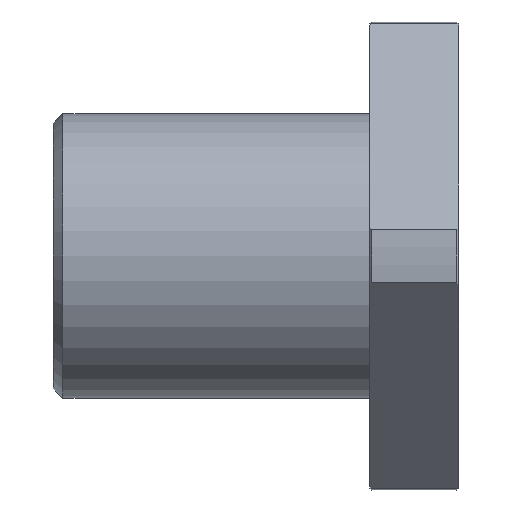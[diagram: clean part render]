
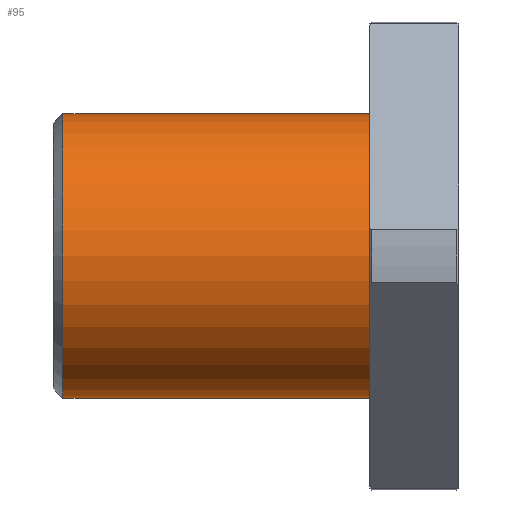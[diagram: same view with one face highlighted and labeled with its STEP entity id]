
A CAD part, front view. The second image highlights one B-rep face of the part: STEP entity #95.
In plain terms, the highlighted cylindrical face has radius 22.5 mm (diameter 45 mm), a full revolution.
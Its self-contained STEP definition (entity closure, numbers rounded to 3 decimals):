
#95=ADVANCED_FACE('',(#174,#175),#176,.T.);
#174=FACE_OUTER_BOUND('',#268,.T.);
#175=FACE_OUTER_BOUND('',#269,.T.);
#176=CYLINDRICAL_SURFACE('',#270,22.5);
#268=EDGE_LOOP('',(#432));
#269=EDGE_LOOP('',(#433));
#270=AXIS2_PLACEMENT_3D('',#434,#435,#436);
#432=ORIENTED_EDGE('',*,*,#588,.F.);
#433=ORIENTED_EDGE('',*,*,#542,.T.);
#434=CARTESIAN_POINT('',(-64.0,0.0,0.0));
#435=DIRECTION('',(1.0,-0.0,-0.0));
#436=DIRECTION('',(0.0,0.0,1.0));
#542=EDGE_CURVE('',#615,#615,#616,.T.);
#588=EDGE_CURVE('',#702,#702,#703,.T.);
#615=VERTEX_POINT('',#737);
#616=CIRCLE('',#738,22.5);
#702=VERTEX_POINT('',#861);
#703=CIRCLE('',#862,22.5);
#737=CARTESIAN_POINT('',(-14.0,0.0,22.5));
#738=AXIS2_PLACEMENT_3D('',#927,#928,#929);
#861=CARTESIAN_POINT('',(-62.5,0.0,22.5));
#862=AXIS2_PLACEMENT_3D('',#1018,#1019,#1020);
#927=CARTESIAN_POINT('',(-14.0,0.0,0.0));
#928=DIRECTION('',(-1.0,0.0,0.0));
#929=DIRECTION('',(0.0,0.0,1.0));
#1018=CARTESIAN_POINT('',(-62.5,0.0,0.0));
#1019=DIRECTION('',(-1.0,0.0,0.0));
#1020=DIRECTION('',(0.0,0.0,1.0));
